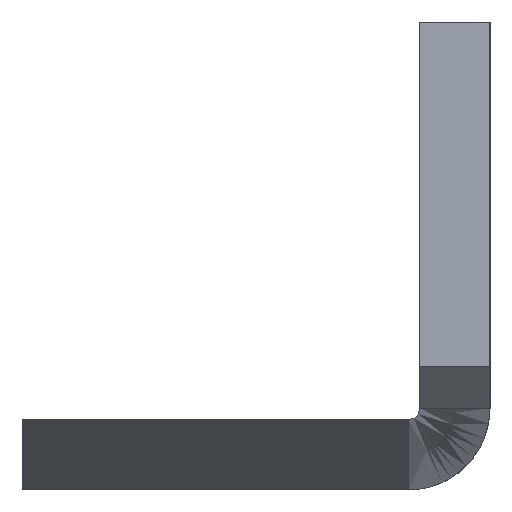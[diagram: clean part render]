
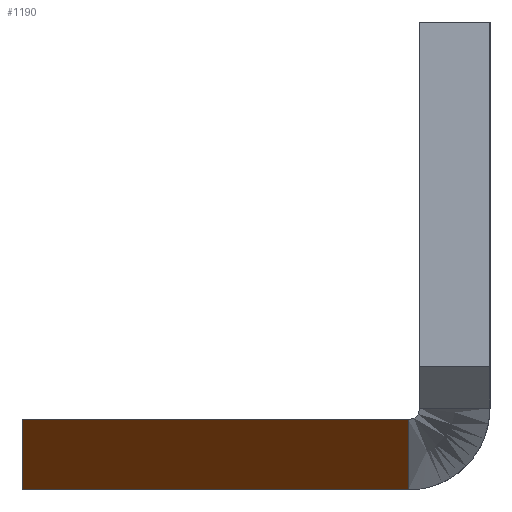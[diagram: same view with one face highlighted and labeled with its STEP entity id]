
A CAD part, left-side view. The second image highlights one B-rep face of the part: STEP entity #1190.
In plain terms, the highlighted planar face has unit normal (-0.447, 0.894, 0).
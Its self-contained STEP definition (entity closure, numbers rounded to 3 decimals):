
#29 = CARTESIAN_POINT ( 'NONE',  ( -210., 17., -20. ) ) ;
#54 = CARTESIAN_POINT ( 'NONE',  ( -250., -3., -20. ) ) ;
#65 = DIRECTION ( 'NONE',  ( -0.894, -0.447, 0. ) ) ;
#108 = CARTESIAN_POINT ( 'NONE',  ( -250., -3., -20. ) ) ;
#154 = DIRECTION ( 'NONE',  ( -0.894, -0.447, 0. ) ) ;
#224 = VERTEX_POINT ( 'NONE', #1398 ) ;
#256 = DIRECTION ( 'NONE',  ( 0., 0., 1. ) ) ;
#293 = PLANE ( 'NONE',  #356 ) ;
#356 = AXIS2_PLACEMENT_3D ( 'NONE', #108, #1913, #749 ) ;
#382 = ORIENTED_EDGE ( 'NONE', *, *, #1328, .T. ) ;
#425 = EDGE_CURVE ( 'NONE', #948, #1236, #2118, .T. ) ;
#749 = DIRECTION ( 'NONE',  ( -0.894, -0.447, 0. ) ) ;
#823 = CARTESIAN_POINT ( 'NONE',  ( -250., -3., -17. ) ) ;
#889 = ORIENTED_EDGE ( 'NONE', *, *, #425, .F. ) ;
#948 = VERTEX_POINT ( 'NONE', #2636 ) ;
#996 = CARTESIAN_POINT ( 'NONE',  ( -243., 0.5, -17. ) ) ;
#1020 = EDGE_CURVE ( 'NONE', #224, #1237, #1811, .T. ) ;
#1023 = CARTESIAN_POINT ( 'NONE',  ( -243., 0.5, -20. ) ) ;
#1045 = CARTESIAN_POINT ( 'NONE',  ( -243., 0.5, -20. ) ) ;
#1090 = LINE ( 'NONE', #823, #2611 ) ;
#1190 = ADVANCED_FACE ( 'NONE', ( #2111 ), #293, .T. ) ;
#1208 = EDGE_LOOP ( 'NONE', ( #889, #2578, #2696, #382 ) ) ;
#1236 = VERTEX_POINT ( 'NONE', #1045 ) ;
#1237 = VERTEX_POINT ( 'NONE', #1252 ) ;
#1252 = CARTESIAN_POINT ( 'NONE',  ( -210., 17., -17. ) ) ;
#1328 = EDGE_CURVE ( 'NONE', #224, #1236, #1554, .T. ) ;
#1398 = CARTESIAN_POINT ( 'NONE',  ( -210., 17., -20. ) ) ;
#1529 = VECTOR ( 'NONE', #256, 1000. ) ;
#1534 = VECTOR ( 'NONE', #65, 1000. ) ;
#1554 = LINE ( 'NONE', #54, #1534 ) ;
#1811 = LINE ( 'NONE', #29, #1529 ) ;
#1887 = EDGE_CURVE ( 'NONE', #1237, #948, #1090, .T. ) ;
#1913 = DIRECTION ( 'NONE',  ( -0.447, 0.894, 0. ) ) ;
#2111 = FACE_OUTER_BOUND ( 'NONE', #1208, .T. ) ;
#2118 = B_SPLINE_CURVE_WITH_KNOTS ( 'NONE', 1,
 ( #996, #1023 ),
 .UNSPECIFIED., .F., .F.,
 ( 2, 2 ),
 ( 0., 1. ),
 .UNSPECIFIED. ) ;
#2578 = ORIENTED_EDGE ( 'NONE', *, *, #1887, .F. ) ;
#2611 = VECTOR ( 'NONE', #154, 1000. ) ;
#2636 = CARTESIAN_POINT ( 'NONE',  ( -243., 0.5, -17. ) ) ;
#2696 = ORIENTED_EDGE ( 'NONE', *, *, #1020, .F. ) ;
